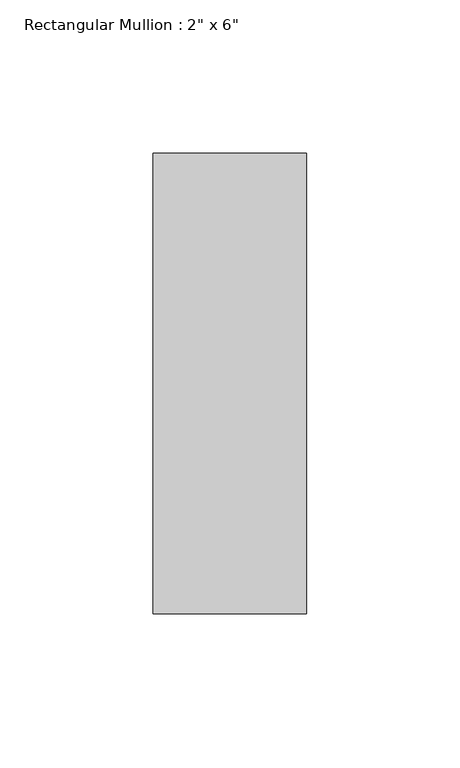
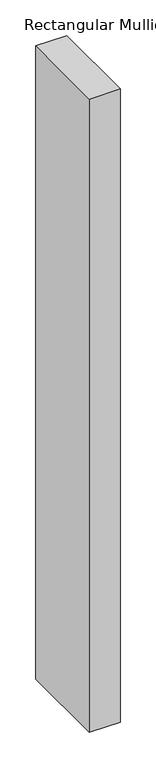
"""IFC4 building model written with IfcOpenShell, lengths in millimetres: member geometry."""

from ifc_helpers import new_model, si_unit, frame, origin, place, context, project, spatial, polyline, outline, extrude, source, transform, mapped, element, save


def member_eacb49a7(model_context):
    return source(origin(), model_context, "Body", "SweptSolid", [
        extrude(outline(polyline([(0.0, 0.0), (0.0, -150.0), (-50.0, -150.0), (-50.0, 0.0), (0.0, 0.0)])), frame((0.0, 0.0, -1082.740704), z_axis=(0.0, 0.0, 1.0), x_axis=(1.0, 0.0, 0.0)), (0.0, 0.0, 1.0), 1082.740704),
    ])


if __name__ == "__main__":
    model = new_model("IFC4")
    model_context = context("Model", 3, world=origin())
    ifc_project = project(units=[si_unit("LENGTHUNIT", "METRE", prefix="MILLI")], contexts=[model_context])
    site = spatial("IfcSite", under=ifc_project)
    building = spatial("IfcBuilding", under=site)
    placement = place(None, origin())
    member_shape = member_eacb49a7(model_context)
    element("IfcMember", 1, ObjectType="Rectangular Mullion : 2\" x 6\"", at=placement, inside=building, context=model_context, shape_type="MappedRepresentation", body=[
        mapped(member_shape, transform((0.0, 0.0, 0.0), x_axis=(1.0, 0.0, 0.0), y_axis=(0.0, 1.0, 0.0), z_axis=(0.0, 0.0, 1.0))),
    ])
    save(model, "model.ifc")
